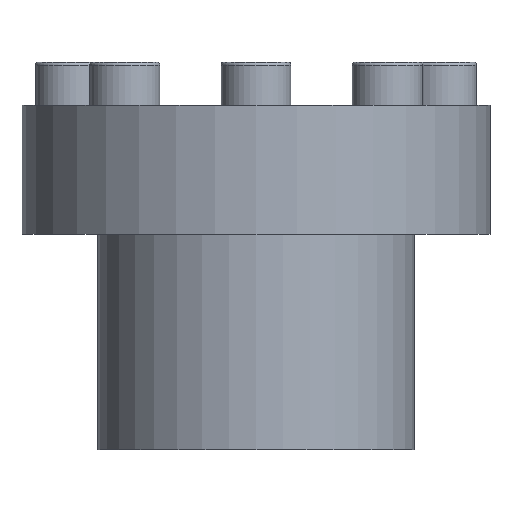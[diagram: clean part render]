
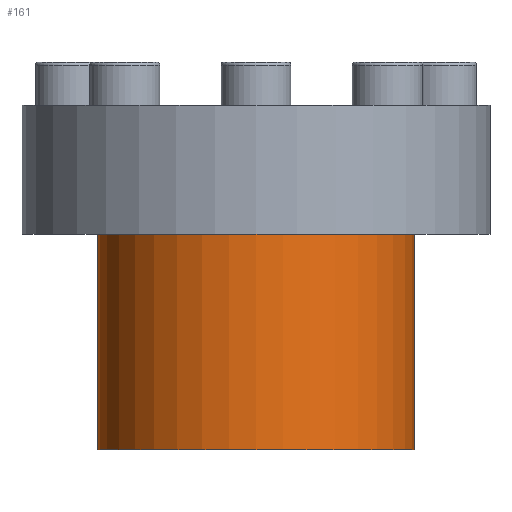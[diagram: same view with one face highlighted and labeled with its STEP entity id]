
A CAD part, front view. The second image highlights one B-rep face of the part: STEP entity #161.
In plain terms, the highlighted cylindrical face has radius 29.4 mm (diameter 58.8 mm), a partial arc.
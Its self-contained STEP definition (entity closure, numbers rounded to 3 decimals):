
#15 = CIRCLE ( 'NONE', #2733, 29.4 ) ;
#71 = CARTESIAN_POINT ( 'NONE',  ( 29.4, 0., -64. ) ) ;
#120 = VECTOR ( 'NONE', #1109, 1000. ) ;
#161 = ADVANCED_FACE ( 'NONE', ( #1143 ), #991, .T. ) ;
#278 = CIRCLE ( 'NONE', #2966, 29.4 ) ;
#300 = VERTEX_POINT ( 'NONE', #71 ) ;
#367 = EDGE_CURVE ( 'NONE', #1520, #2278, #278, .T. ) ;
#368 = DIRECTION ( 'NONE',  ( 1., 0., 0. ) ) ;
#401 = CARTESIAN_POINT ( 'NONE',  ( -29.4, 0., -24. ) ) ;
#639 = DIRECTION ( 'NONE',  ( 0., 0., 1. ) ) ;
#652 = CARTESIAN_POINT ( 'NONE',  ( 29.4, 0., -24. ) ) ;
#816 = AXIS2_PLACEMENT_3D ( 'NONE', #1865, #2144, #2128 ) ;
#880 = DIRECTION ( 'NONE',  ( 1., 0., 0. ) ) ;
#946 = VERTEX_POINT ( 'NONE', #1767 ) ;
#991 = CYLINDRICAL_SURFACE ( 'NONE', #816, 29.4 ) ;
#1012 = EDGE_CURVE ( 'NONE', #300, #2278, #1467, .T. ) ;
#1109 = DIRECTION ( 'NONE',  ( 0., 0., 1. ) ) ;
#1143 = FACE_OUTER_BOUND ( 'NONE', #1884, .T. ) ;
#1256 = CARTESIAN_POINT ( 'NONE',  ( 0., 0., -24. ) ) ;
#1258 = CARTESIAN_POINT ( 'NONE',  ( -29.4, 0., 0. ) ) ;
#1268 = ORIENTED_EDGE ( 'NONE', *, *, #367, .F. ) ;
#1273 = VECTOR ( 'NONE', #1452, 1000. ) ;
#1426 = EDGE_CURVE ( 'NONE', #946, #1520, #2630, .T. ) ;
#1452 = DIRECTION ( 'NONE',  ( 0., 0., 1. ) ) ;
#1467 = LINE ( 'NONE', #2280, #120 ) ;
#1493 = EDGE_CURVE ( 'NONE', #946, #300, #15, .T. ) ;
#1520 = VERTEX_POINT ( 'NONE', #401 ) ;
#1767 = CARTESIAN_POINT ( 'NONE',  ( -29.4, 0., -64. ) ) ;
#1771 = DIRECTION ( 'NONE',  ( 0., 0., 1. ) ) ;
#1865 = CARTESIAN_POINT ( 'NONE',  ( 0., 0., 0. ) ) ;
#1884 = EDGE_LOOP ( 'NONE', ( #2420, #2035, #2508, #1268 ) ) ;
#2035 = ORIENTED_EDGE ( 'NONE', *, *, #1493, .T. ) ;
#2128 = DIRECTION ( 'NONE',  ( 1., 0., 0. ) ) ;
#2144 = DIRECTION ( 'NONE',  ( 0., 0., 1. ) ) ;
#2278 = VERTEX_POINT ( 'NONE', #652 ) ;
#2280 = CARTESIAN_POINT ( 'NONE',  ( 29.4, 0., 0. ) ) ;
#2311 = CARTESIAN_POINT ( 'NONE',  ( 0., 0., -64. ) ) ;
#2420 = ORIENTED_EDGE ( 'NONE', *, *, #1426, .F. ) ;
#2508 = ORIENTED_EDGE ( 'NONE', *, *, #1012, .T. ) ;
#2630 = LINE ( 'NONE', #1258, #1273 ) ;
#2733 = AXIS2_PLACEMENT_3D ( 'NONE', #2311, #639, #880 ) ;
#2966 = AXIS2_PLACEMENT_3D ( 'NONE', #1256, #1771, #368 ) ;
